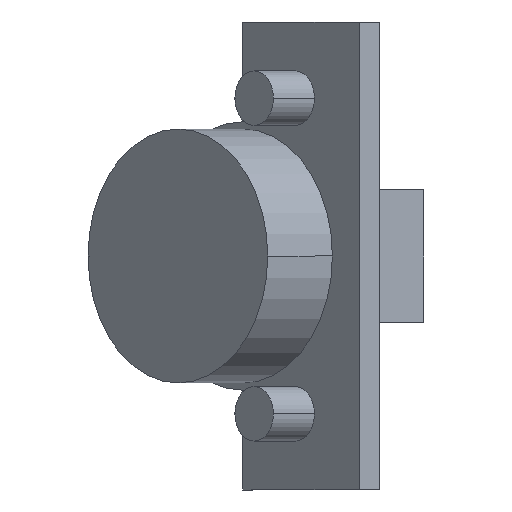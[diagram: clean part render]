
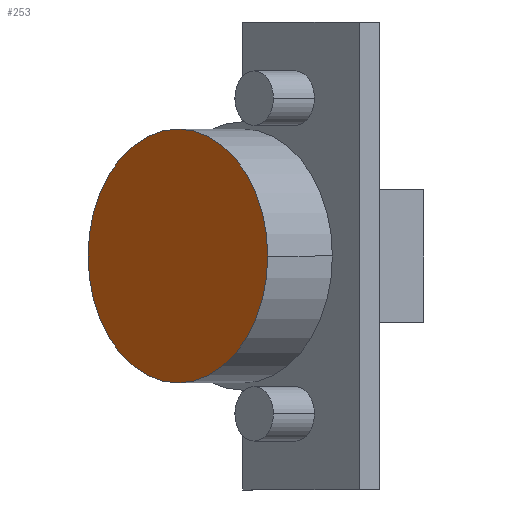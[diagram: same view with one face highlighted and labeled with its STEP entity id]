
A CAD part, front view. The second image highlights one B-rep face of the part: STEP entity #253.
In plain terms, the highlighted planar face has unit normal (-0.707, -0.707, 0).
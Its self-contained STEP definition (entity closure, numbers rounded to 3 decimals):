
#30 = EDGE_CURVE ( 'NONE', #452, #450, #1479, .T. ) ;
#52 = EDGE_CURVE ( 'NONE', #450, #452, #1518, .T. ) ;
#149 = AXIS2_PLACEMENT_3D ( 'NONE', #579, #586, #587 ) ;
#155 = AXIS2_PLACEMENT_3D ( 'NONE', #633, #637, #638 ) ;
#186 = AXIS2_PLACEMENT_3D ( 'NONE', #793, #804, #805 ) ;
#253 = ADVANCED_FACE ( 'NONE', ( #1695 ), #790, .T. ) ;
#450 = VERTEX_POINT ( 'NONE', #986 ) ;
#452 = VERTEX_POINT ( 'NONE', #988 ) ;
#579 = CARTESIAN_POINT ( 'NONE',  ( -6.36, -8.91, 0. ) ) ;
#586 = DIRECTION ( 'NONE',  ( -0.707, -0.707, 0. ) ) ;
#587 = DIRECTION ( 'NONE',  ( 0.707, -0.707, 0. ) ) ;
#633 = CARTESIAN_POINT ( 'NONE',  ( -6.36, -8.91, 0. ) ) ;
#637 = DIRECTION ( 'NONE',  ( -0.707, -0.707, 0. ) ) ;
#638 = DIRECTION ( 'NONE',  ( 0.707, -0.707, 0. ) ) ;
#790 = PLANE ( 'NONE',  #186 ) ;
#793 = CARTESIAN_POINT ( 'NONE',  ( -6.36, -8.91, 0. ) ) ;
#804 = DIRECTION ( 'NONE',  ( -0.707, -0.707, 0. ) ) ;
#805 = DIRECTION ( 'NONE',  ( 0.707, -0.707, 0. ) ) ;
#986 = CARTESIAN_POINT ( 'NONE',  ( -18.734, 3.465, 0. ) ) ;
#988 = CARTESIAN_POINT ( 'NONE',  ( 6.015, -21.284, 0. ) ) ;
#1333 = ORIENTED_EDGE ( 'NONE', *, *, #30, .T. ) ;
#1334 = ORIENTED_EDGE ( 'NONE', *, *, #52, .T. ) ;
#1387 = EDGE_LOOP ( 'NONE', ( #1334, #1333 ) ) ;
#1479 = CIRCLE ( 'NONE', #149, 17.5 ) ;
#1518 = CIRCLE ( 'NONE', #155, 17.5 ) ;
#1695 = FACE_OUTER_BOUND ( 'NONE', #1387, .T. ) ;
